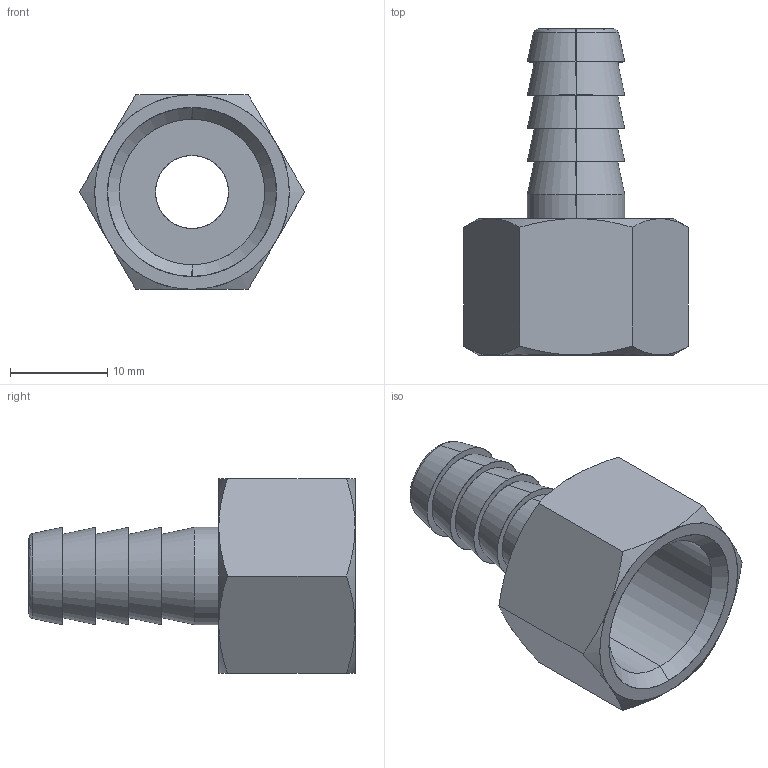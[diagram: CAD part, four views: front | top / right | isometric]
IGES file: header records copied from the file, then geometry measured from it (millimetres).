
Start section: SolidWorks IGES file using analytic representation for surfaces
Global section: file name: K:\Disegni Esecutivi\Accessori\3050\030500001CG00.IGS; native system: SolidWorks 2007; preprocessor: SolidWorks 2007; author: cad02; date: 071022.083427; units: millimetre
Bounding box: 23.09 x 33.5 x 20 mm (x, y, z)
Surface area: 3214 mm2 (no closed solid volume)
Topology: 0 solids, 0 shells, 46 faces, 840 edges, 840 vertices
Faces by surface type: revolution 30, bspline 16
